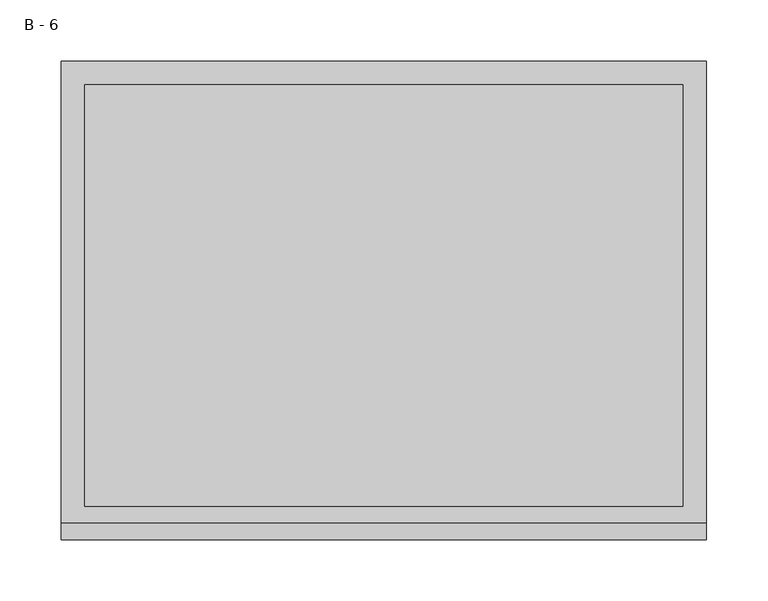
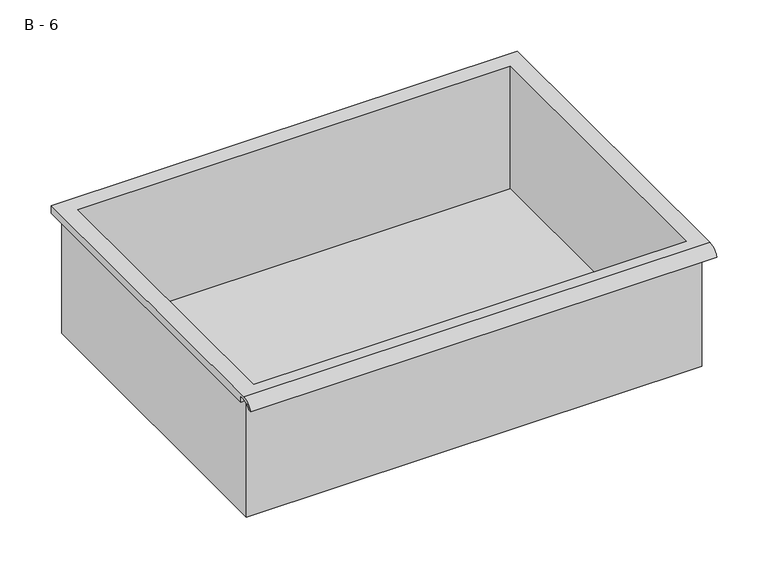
"""IFC4 building model written with IfcOpenShell, lengths in millimetres: furniture geometry, HermanMiller_CoStruc_CO207_Drawer : B - 6."""

from ifc_helpers import new_model, si_unit, frame, origin, place, context, project, spatial, polyline, circle_curve, source, transform, mapped, element, save
from ifc_brep_helpers import plane_surface, cylinder_surface, revolved_surface, advanced_brep


def b_6_c41737b1(model_context):
    return source(origin(), model_context, "Body", "AdvancedBrep", [
        advanced_brep(
        [(-257.1076517, -176.2125, 268.3002), (257.2423483, -176.2125, 268.3002), (257.2423483, -176.2125, 408.0002), (263.5923483, -176.2125, 408.0002), (263.5923483, -176.2125, 414.3073341), (-263.4576517, -176.2125, 414.3073341), (-263.4576517, -176.2125, 408.0002), (-257.1076517, -176.2125, 408.0002), (257.2423483, 185.7375, 268.3002), (-257.1076517, 185.7375, 268.3002), (-257.1076517, 185.7375, 408.0002), (257.2423483, 185.7375, 408.0002), (263.5923483, -181.6070544, 417.5252), (263.5923483, 195.2625, 417.5252), (-263.4576517, 195.2625, 417.5252), (-263.4576517, -181.6070544, 417.5252), (244.5423483, -168.275, 417.5252), (-244.4076517, -168.275, 417.5252), (-244.4076517, 176.2125, 417.5252), (244.5423483, 176.2125, 417.5252), (263.5923483, -195.2625, 408.0002), (263.5923483, -191.8280601, 408.0002), (263.5923483, -180.4714815, 414.3073341), (263.5923483, 195.2625, 408.0002), (-263.4576517, 195.2625, 408.0002), (-263.4576517, -180.4714815, 414.3073341), (-263.4576517, -191.8280601, 408.0002), (-263.4576517, -195.2625, 408.0002), (-244.4076517, -168.275, 271.3263719), (244.5423483, -168.275, 271.3263719), (244.5423483, 176.2125, 271.3263719), (-244.4076517, 176.2125, 271.3263719)],
        [
            (0, 1),
            (1, 2),
            (2, 3),
            (3, 4),
            (4, 5),
            (5, 6),
            (6, 7),
            (7, 0),
            (8, 9),
            (9, 10),
            (10, 11),
            (11, 8),
            (0, 9),
            (8, 1),
            (11, 2),
            (12, 13),
            (13, 14),
            (14, 15),
            (15, 12),
            (16, 17),
            (17, 18),
            (18, 19),
            (19, 16),
            (7, 10),
            (12, 20, circle_curve(frame((263.5923483, -181.6070544, 402.9741859), z_axis=(1.0, 0.0, 0.0), x_axis=(0.0, 1.0, 0.0)), 14.5510141)),
            (20, 21),
            (21, 22, circle_curve(frame((263.5923483, -181.6070544, 402.9741859), z_axis=(-1.0, 0.0, 0.0), x_axis=(0.0, 1.0, 0.0)), 11.3898979)),
            (22, 4),
            (3, 23),
            (23, 13),
            (14, 24),
            (24, 6),
            (5, 25),
            (25, 26, circle_curve(frame((-263.4576517, -181.6070544, 402.9741859), z_axis=(1.0, 0.0, 0.0), x_axis=(0.0, 1.0, 0.0)), 11.3898979)),
            (26, 27),
            (27, 15, circle_curve(frame((-263.4576517, -181.6070544, 402.9741859), z_axis=(-1.0, 0.0, 0.0), x_axis=(0.0, 1.0, 0.0)), 14.5510141)),
            (27, 20),
            (26, 21),
            (25, 22),
            (24, 23),
            (28, 29),
            (29, 30),
            (30, 31),
            (31, 28),
            (28, 17),
            (16, 29),
            (19, 30),
            (18, 31),
        ],
        [
            plane_surface(frame((257.2423483, -176.2125, 268.3002), z_axis=(0.0, -1.0, 0.0), x_axis=(1.0, 0.0, 0.0))),
            plane_surface(frame((257.2423483, 185.7375, 268.3002), z_axis=(0.0, 1.0, 0.0), x_axis=(-1.0, 0.0, 0.0))),
            plane_surface(frame((-257.1076517, -176.2125, 268.3002), z_axis=(0.0, 0.0, -1.0), x_axis=(0.0, 1.0, 0.0))),
            plane_surface(frame((257.2423483, -176.2125, 268.3002), z_axis=(1.0, 0.0, 0.0), x_axis=(0.0, 1.0, 0.0))),
            plane_surface(frame((257.2423483, -176.2125, 417.5252), z_axis=(0.0, 0.0, 1.0), x_axis=(0.0, 1.0, 0.0))),
            plane_surface(frame((-257.1076517, -176.2125, 417.5252), z_axis=(-1.0, 0.0, 0.0), x_axis=(0.0, 1.0, 0.0))),
            plane_surface(frame((263.5923483, 195.2625, 417.5252), z_axis=(1.0, 0.0, 0.0), x_axis=(0.0, -1.0, 0.0))),
            plane_surface(frame((-263.4576517, 195.2625, 417.5252), z_axis=(-1.0, 0.0, 0.0), x_axis=(0.0, 1.0, 0.0))),
            cylinder_surface(frame((-263.4576517, -181.6070544, 402.9741859), z_axis=(1.0, 0.0, 0.0), x_axis=(0.0, 1.0, 0.0)), 14.5510141),
            plane_surface(frame((263.5923483, -195.2625, 408.0002), z_axis=(0.0, -7.251821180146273e-12, -1.0), x_axis=(-1.0, 0.0, 0.0))),
            revolved_surface(polyline([(-263.4576517, -170.21715650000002, 402.9741859), (263.59234829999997, -170.21715650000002, 402.9741859)]), (-263.4576517, -181.6070544, 402.9741859), (-1.0, 0.0, 0.0)),
            plane_surface(frame((263.5923483, -180.4714815, 414.3073341), z_axis=(0.0, -1.7940864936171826e-11, -1.0), x_axis=(-1.0, 0.0, 0.0))),
            plane_surface(frame((263.5923483, -176.2125, 408.0002), z_axis=(0.0, 0.0, -1.0), x_axis=(-1.0, 0.0, 0.0))),
            plane_surface(frame((263.5923483, 195.2625, 408.0002), z_axis=(0.0, 1.0, 0.0), x_axis=(-1.0, 0.0, 0.0))),
            plane_surface(frame((244.5423483, -168.275, 271.3263719), z_axis=(0.0, 0.0, 1.0), x_axis=(-1.0, 0.0, 0.0))),
            plane_surface(frame((-244.4076517, -168.275, 417.5252), z_axis=(0.0, 1.0, 0.0), x_axis=(0.0, 0.0, -1.0))),
            plane_surface(frame((244.5423483, -168.275, 417.5252), z_axis=(-1.0, 0.0, 0.0), x_axis=(0.0, 0.0, -1.0))),
            plane_surface(frame((244.5423483, 176.2125, 417.5252), z_axis=(0.0, -1.0, 0.0), x_axis=(0.0, 0.0, -1.0))),
            plane_surface(frame((-244.4076517, 176.2125, 417.5252), z_axis=(1.0, 0.0, 0.0), x_axis=(0.0, 0.0, -1.0))),
        ],
        [
            (0, [[1, 2, 3, 4, 5, 6, 7, 8]]),
            (1, [[9, 10, 11, 12]]),
            (2, [[-1, 13, -9, 14]]),
            (3, [[-14, -12, 15, -2]]),
            (4, [[16, 17, 18, 19], [20, 21, 22, 23]]),
            (5, [[-13, -8, 24, -10]]),
            (6, [[-16, 25, 26, 27, 28, -4, 29, 30]]),
            (7, [[31, 32, -6, 33, 34, 35, 36, -18]]),
            (8, [[-25, -19, -36, 37]]),
            (9, [[-26, -37, -35, 38]]),
            (10, [[-27, -38, -34, 39]]),
            (11, [[-28, -39, -33, -5]]),
            (12, [[-29, -3, -15, -11, -24, -7, -32, 40]]),
            (13, [[-30, -40, -31, -17]]),
            (14, [[41, 42, 43, 44]]),
            (15, [[-41, 45, -20, 46]]),
            (16, [[-42, -46, -23, 47]]),
            (17, [[-43, -47, -22, 48]]),
            (18, [[-44, -48, -21, -45]]),
        ],
    ),
    ])


if __name__ == "__main__":
    model = new_model("IFC4")
    model_context = context("Model", 3, world=origin())
    ifc_project = project(units=[si_unit("LENGTHUNIT", "METRE", prefix="MILLI")], contexts=[model_context])
    site = spatial("IfcSite", under=ifc_project)
    building = spatial("IfcBuilding", under=site)
    placement = place(None, origin())
    b_6_shape = b_6_c41737b1(model_context)
    element("IfcFurniture", 1, ObjectType="HermanMiller_CoStruc_CO207_Drawer : B - 6", at=placement, inside=building, context=model_context, shape_type="MappedRepresentation", body=[
        mapped(b_6_shape, transform((0.0, 0.0, 0.0), x_axis=(1.0, 0.0, 0.0), y_axis=(0.0, 1.0, 0.0), z_axis=(0.0, 0.0, 1.0))),
    ])
    save(model, "model.ifc")
